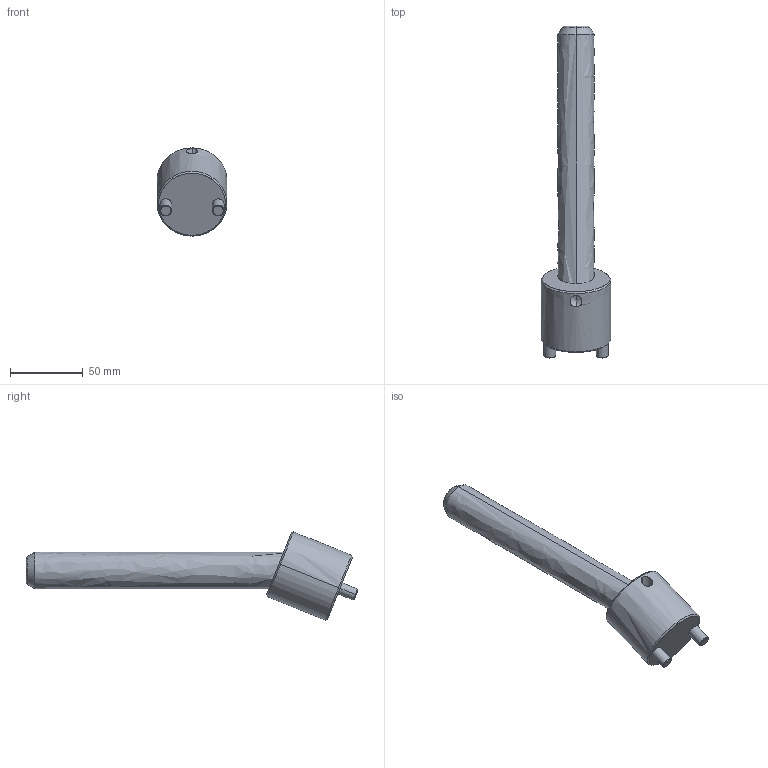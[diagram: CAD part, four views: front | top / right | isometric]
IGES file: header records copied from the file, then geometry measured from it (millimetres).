
Start section: START RECORD GO HERE.
Global section: file name: CI2225175.igs; native system: DASSAULT SYSTEMES CATIA V5 R20 - www.3ds.com; preprocessor: CATIA Version 5 Release 20 ; author: r.borello; organization: CFTORINO; date: 20190624.085330; units: millimetre
Bounding box: 48 x 228.03 x 60.61 mm (x, y, z)
Surface area: 31261.5 mm2 (no closed solid volume)
Topology: 0 solids, 0 shells, 39 faces, 162 edges, 160 vertices
Faces by surface type: revolution 32, plane 7
